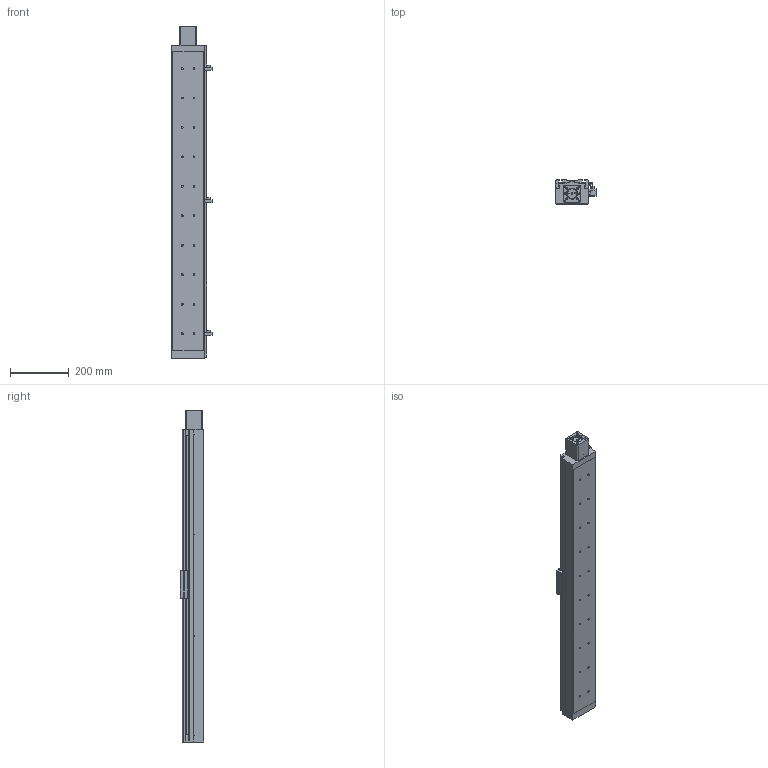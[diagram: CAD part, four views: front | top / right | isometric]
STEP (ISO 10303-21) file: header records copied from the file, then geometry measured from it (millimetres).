
FILE_DESCRIPTION((''),'2;1');
FILE_NAME('E:\libraries\UIA actuator library 2009\standard actuator\UIA110R12(15)DC\UIA110R12(15)DC-ball screw dia.16\UIA110R12(15)DC-_ _ _-R16_ _ step file 20Apr16\UIA110R12(15)DC-900-R16_ _-M23-P13-C10-S.stp','2016-04-20T17:19:22',('h029'),(''),'Autodesk Inventor 11','Autodesk Inventor 11','');
FILE_SCHEMA(('AUTOMOTIVE_DESIGN { 1 0 10303 214 1 1 1 1 }'));
Length unit declared in the file: millimetre
Products named in the file (10): UIA110R12(15)DC-900, ball screw dia.16; body, UIA110R12(15)DC-900,ball screw dia.16; Carriage, UIA110R12(15)DC; Sen Switch, UIA110R12(15)DC; sensor rail, UIA110R12(15)DC-900; SOH-32C; SOH-32C-3; SOH-32C-1; SOH-32C-2; M23 motor mount
Assembly tree (9 placements, depth 3):
  UIA110R12(15)DC-900, ball screw dia.16
    body, UIA110R12(15)DC-900,ball screw dia.16
    Carriage, UIA110R12(15)DC
    Sen Switch, UIA110R12(15)DC
    sensor rail, UIA110R12(15)DC-900
    SOH-32C
      SOH-32C-3
      SOH-32C-1
      SOH-32C-2
    M23 motor mount
Bounding box: 136.5 x 81 x 1127 mm (x, y, z)
Volume: 8034751.9 mm3; surface area: 623831.3 mm2
Topology: 8 solids, 8 shells, 661 faces, 1752 edges, 1149 vertices
Faces by surface type: plane 419, cylinder 140, bspline 83, cone 19
Full cylindrical faces by diameter (mm): 2.459 x4, 3.242 x4, 4 x6, 4.5 x4, 5.5 x3, 6.35 x1, 6.5 x20, 7.5 x4, 8 x2, 9.5 x6, 10 x1, 10.5 x20, 21 x1, 32 x3, 37 x1, 38.1 x1, 42 x1, 42.01 x1, 43.5 x1
Entity records: 20900 total; most frequent: CARTESIAN_POINT 5235, DIRECTION 3159, ORIENTED_EDGE 3002, EDGE_CURVE 1501, AXIS2_PLACEMENT_3D 1078, VERTEX_POINT 1072, VECTOR 1003, LINE 1003
